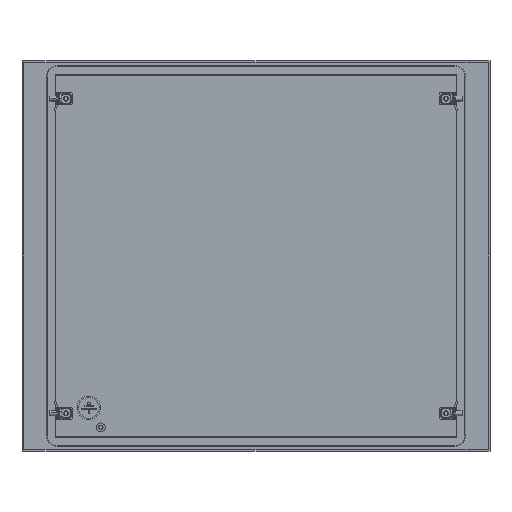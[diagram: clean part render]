
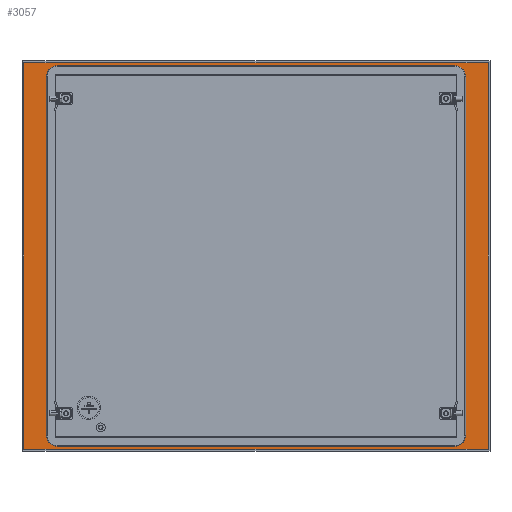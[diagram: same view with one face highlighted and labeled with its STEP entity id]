
A CAD part, left-side view. The second image highlights one B-rep face of the part: STEP entity #3057.
In plain terms, the highlighted planar face has unit normal (-1, 0, 0).
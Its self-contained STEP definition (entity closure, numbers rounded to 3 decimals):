
#38 = ORIENTED_EDGE ( 'NONE', *, *, #16354, .F. ) ;
#296 = LINE ( 'NONE', #3985, #18688 ) ;
#431 = EDGE_CURVE ( 'NONE', #23473, #23430, #13213, .T. ) ;
#479 = CARTESIAN_POINT ( 'NONE',  ( -2., 295.5, 246. ) ) ;
#712 = ORIENTED_EDGE ( 'NONE', *, *, #5127, .T. ) ;
#742 = AXIS2_PLACEMENT_3D ( 'NONE', #8907, #16678, #16796 ) ;
#1137 = AXIS2_PLACEMENT_3D ( 'NONE', #12327, #18417, #18307 ) ;
#1229 = ORIENTED_EDGE ( 'NONE', *, *, #6019, .F. ) ;
#1572 = VECTOR ( 'NONE', #7668, 1000. ) ;
#1595 = CARTESIAN_POINT ( 'NONE',  ( -2., 252.5, 242. ) ) ;
#1825 = VERTEX_POINT ( 'NONE', #479 ) ;
#1997 = ORIENTED_EDGE ( 'NONE', *, *, #23475, .T. ) ;
#2057 = EDGE_LOOP ( 'NONE', ( #20004, #1997, #12131, #20178 ) ) ;
#2132 = VERTEX_POINT ( 'NONE', #15467 ) ;
#2210 = CARTESIAN_POINT ( 'NONE',  ( -2., 266.5, 228. ) ) ;
#2503 = LINE ( 'NONE', #17900, #22537 ) ;
#2739 = DIRECTION ( 'NONE',  ( 0., -1., 0. ) ) ;
#2969 = AXIS2_PLACEMENT_3D ( 'NONE', #6288, #14065, #2739 ) ;
#3057 = ADVANCED_FACE ( 'NONE', ( #4327, #6842 ), #16525, .F. ) ;
#3591 = DIRECTION ( 'NONE',  ( 0., 1., 0. ) ) ;
#3649 = CARTESIAN_POINT ( 'NONE',  ( -2., -295.5, -246. ) ) ;
#3985 = CARTESIAN_POINT ( 'NONE',  ( -2., -252.5, 242. ) ) ;
#4327 = FACE_OUTER_BOUND ( 'NONE', #2057, .T. ) ;
#4765 = VECTOR ( 'NONE', #16958, 1000. ) ;
#5127 = EDGE_CURVE ( 'NONE', #11431, #10933, #23612, .T. ) ;
#5389 = CIRCLE ( 'NONE', #2969, 14. ) ;
#5623 = DIRECTION ( 'NONE',  ( -1., 0., 0. ) ) ;
#5676 = DIRECTION ( 'NONE',  ( 0., 1., 0. ) ) ;
#6019 = EDGE_CURVE ( 'NONE', #23430, #11657, #296, .T. ) ;
#6288 = CARTESIAN_POINT ( 'NONE',  ( -2., -252.5, -228. ) ) ;
#6555 = CARTESIAN_POINT ( 'NONE',  ( -2., -252.5, -242. ) ) ;
#6842 = FACE_BOUND ( 'NONE', #7450, .T. ) ;
#7013 = CARTESIAN_POINT ( 'NONE',  ( -2., 0., 246. ) ) ;
#7068 = ORIENTED_EDGE ( 'NONE', *, *, #14517, .T. ) ;
#7450 = EDGE_LOOP ( 'NONE', ( #12468, #25119, #13561, #712, #21554, #7068, #38, #1229 ) ) ;
#7538 = CARTESIAN_POINT ( 'NONE',  ( -2., 252.5, 228. ) ) ;
#7618 = CIRCLE ( 'NONE', #742, 14. ) ;
#7668 = DIRECTION ( 'NONE',  ( 0., 0., -1. ) ) ;
#7725 = VERTEX_POINT ( 'NONE', #10050 ) ;
#8577 = LINE ( 'NONE', #22407, #11813 ) ;
#8592 = DIRECTION ( 'NONE',  ( 0., 0., -1. ) ) ;
#8595 = EDGE_CURVE ( 'NONE', #2132, #8945, #19332, .T. ) ;
#8684 = CARTESIAN_POINT ( 'NONE',  ( -2., -266.5, 228. ) ) ;
#8907 = CARTESIAN_POINT ( 'NONE',  ( -2., 252.5, -228. ) ) ;
#8945 = VERTEX_POINT ( 'NONE', #3649 ) ;
#9540 = CARTESIAN_POINT ( 'NONE',  ( -2., 0., -246. ) ) ;
#9738 = VERTEX_POINT ( 'NONE', #15522 ) ;
#10050 = CARTESIAN_POINT ( 'NONE',  ( -2., 266.5, -228. ) ) ;
#10260 = DIRECTION ( 'NONE',  ( 0., 0., 1. ) ) ;
#10933 = VERTEX_POINT ( 'NONE', #19487 ) ;
#11431 = VERTEX_POINT ( 'NONE', #6555 ) ;
#11478 = DIRECTION ( 'NONE',  ( 0., 0., 1. ) ) ;
#11657 = VERTEX_POINT ( 'NONE', #1595 ) ;
#11813 = VECTOR ( 'NONE', #16709, 1000. ) ;
#11843 = DIRECTION ( 'NONE',  ( 0., -1., 0. ) ) ;
#12131 = ORIENTED_EDGE ( 'NONE', *, *, #21692, .T. ) ;
#12231 = CARTESIAN_POINT ( 'NONE',  ( -2., -252.5, 228. ) ) ;
#12327 = CARTESIAN_POINT ( 'NONE',  ( -2., 0., 0. ) ) ;
#12398 = AXIS2_PLACEMENT_3D ( 'NONE', #12231, #15681, #23420 ) ;
#12468 = ORIENTED_EDGE ( 'NONE', *, *, #431, .F. ) ;
#13074 = AXIS2_PLACEMENT_3D ( 'NONE', #7538, #5623, #11478 ) ;
#13213 = CIRCLE ( 'NONE', #12398, 14. ) ;
#13561 = ORIENTED_EDGE ( 'NONE', *, *, #17759, .T. ) ;
#14065 = DIRECTION ( 'NONE',  ( 1., 0., 0. ) ) ;
#14384 = VECTOR ( 'NONE', #11843, 1000. ) ;
#14517 = EDGE_CURVE ( 'NONE', #7725, #20316, #19802, .T. ) ;
#14619 = VECTOR ( 'NONE', #10260, 1000. ) ;
#15467 = CARTESIAN_POINT ( 'NONE',  ( -2., 295.5, -246. ) ) ;
#15522 = CARTESIAN_POINT ( 'NONE',  ( -2., -295.5, 246. ) ) ;
#15681 = DIRECTION ( 'NONE',  ( -1., 0., 0. ) ) ;
#16259 = EDGE_CURVE ( 'NONE', #8945, #9738, #8577, .T. ) ;
#16354 = EDGE_CURVE ( 'NONE', #11657, #20316, #23639, .T. ) ;
#16525 = PLANE ( 'NONE',  #1137 ) ;
#16678 = DIRECTION ( 'NONE',  ( 1., 0., 0. ) ) ;
#16709 = DIRECTION ( 'NONE',  ( 0., 0., 1. ) ) ;
#16796 = DIRECTION ( 'NONE',  ( 0., 0., -1. ) ) ;
#16958 = DIRECTION ( 'NONE',  ( 0., 1., 0. ) ) ;
#17759 = EDGE_CURVE ( 'NONE', #22711, #11431, #5389, .T. ) ;
#17777 = CARTESIAN_POINT ( 'NONE',  ( -2., -252.5, -242. ) ) ;
#17900 = CARTESIAN_POINT ( 'NONE',  ( -2., 295.5, 0. ) ) ;
#18307 = DIRECTION ( 'NONE',  ( 0., 0., 1. ) ) ;
#18417 = DIRECTION ( 'NONE',  ( 1., 0., 0. ) ) ;
#18604 = CARTESIAN_POINT ( 'NONE',  ( -2., -252.5, 242. ) ) ;
#18688 = VECTOR ( 'NONE', #3591, 1000. ) ;
#19332 = LINE ( 'NONE', #9540, #14384 ) ;
#19487 = CARTESIAN_POINT ( 'NONE',  ( -2., 252.5, -242. ) ) ;
#19802 = LINE ( 'NONE', #23874, #14619 ) ;
#20004 = ORIENTED_EDGE ( 'NONE', *, *, #16259, .T. ) ;
#20127 = EDGE_CURVE ( 'NONE', #23473, #22711, #23679, .T. ) ;
#20178 = ORIENTED_EDGE ( 'NONE', *, *, #8595, .T. ) ;
#20316 = VERTEX_POINT ( 'NONE', #2210 ) ;
#21554 = ORIENTED_EDGE ( 'NONE', *, *, #25120, .T. ) ;
#21692 = EDGE_CURVE ( 'NONE', #1825, #2132, #2503, .T. ) ;
#22407 = CARTESIAN_POINT ( 'NONE',  ( -2., -295.5, 0. ) ) ;
#22537 = VECTOR ( 'NONE', #8592, 1000. ) ;
#22711 = VERTEX_POINT ( 'NONE', #25130 ) ;
#23420 = DIRECTION ( 'NONE',  ( 0., -1., 0. ) ) ;
#23430 = VERTEX_POINT ( 'NONE', #18604 ) ;
#23431 = CARTESIAN_POINT ( 'NONE',  ( -2., -266.5, 0. ) ) ;
#23473 = VERTEX_POINT ( 'NONE', #8684 ) ;
#23475 = EDGE_CURVE ( 'NONE', #9738, #1825, #24442, .T. ) ;
#23612 = LINE ( 'NONE', #17777, #23923 ) ;
#23639 = CIRCLE ( 'NONE', #13074, 14. ) ;
#23679 = LINE ( 'NONE', #23431, #1572 ) ;
#23874 = CARTESIAN_POINT ( 'NONE',  ( -2., 266.5, -228. ) ) ;
#23923 = VECTOR ( 'NONE', #5676, 1000. ) ;
#24442 = LINE ( 'NONE', #7013, #4765 ) ;
#25119 = ORIENTED_EDGE ( 'NONE', *, *, #20127, .T. ) ;
#25120 = EDGE_CURVE ( 'NONE', #10933, #7725, #7618, .T. ) ;
#25130 = CARTESIAN_POINT ( 'NONE',  ( -2., -266.5, -228. ) ) ;
